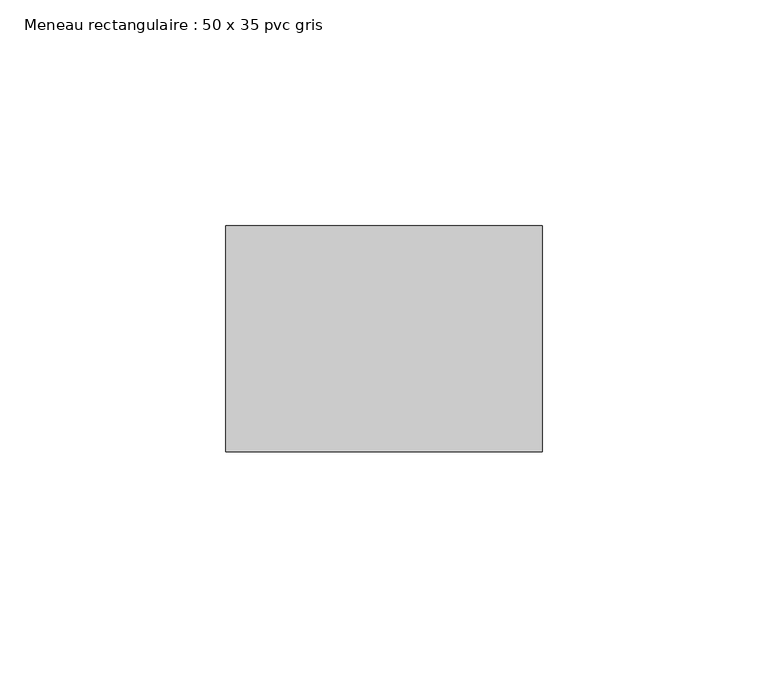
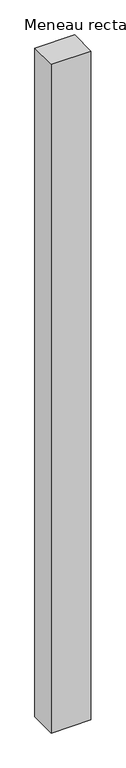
"""IFC4 building model written with IfcOpenShell, lengths in millimetres: member geometry, Meneau rectangulaire : 50 x 35 pvc gris."""

from ifc_helpers import new_model, si_unit, frame, origin, place, context, project, spatial, polyline, outline, extrude, source, transform, mapped, element, save


def meneau_rectangulaire_50_x_35_pvc_gris_9d8149e5(model_context):
    return source(origin(), model_context, "Body", "SweptSolid", [
        extrude(outline(polyline([(35.0, 0.0), (35.0, -50.0), (-35.0, -50.0), (-35.0, 0.0), (35.0, 0.0)])), frame((0.0, 0.0, -1250.0), z_axis=(0.0, 0.0, 1.0), x_axis=(1.0, 0.0, 0.0)), (0.0, 0.0, 1.0), 1250.0),
    ])


if __name__ == "__main__":
    model = new_model("IFC4")
    model_context = context("Model", 3, world=origin())
    ifc_project = project(units=[si_unit("LENGTHUNIT", "METRE", prefix="MILLI")], contexts=[model_context])
    site = spatial("IfcSite", under=ifc_project)
    building = spatial("IfcBuilding", under=site)
    placement = place(None, origin())
    meneau_rectangulaire_50_x_35_pvc_gris_shape = meneau_rectangulaire_50_x_35_pvc_gris_9d8149e5(model_context)
    element("IfcMember", 1, ObjectType="Meneau rectangulaire : 50 x 35 pvc gris", at=placement, inside=building, context=model_context, shape_type="MappedRepresentation", body=[
        mapped(meneau_rectangulaire_50_x_35_pvc_gris_shape, transform((0.0, 0.0, 0.0), x_axis=(1.0, 0.0, 0.0), y_axis=(0.0, 1.0, 0.0), z_axis=(0.0, 0.0, 1.0))),
    ])
    save(model, "model.ifc")
